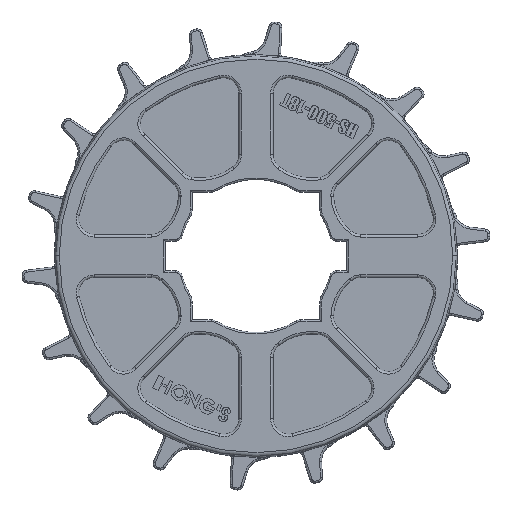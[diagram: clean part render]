
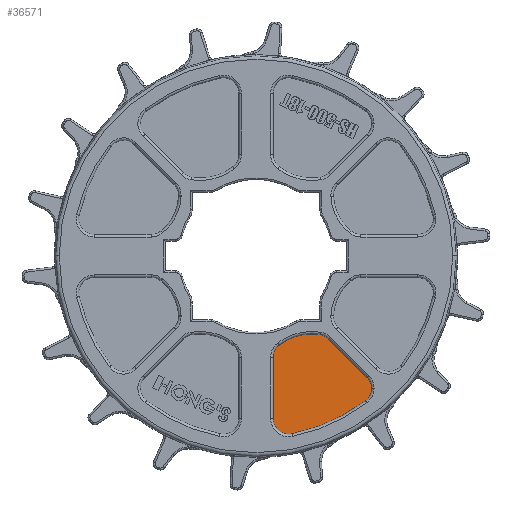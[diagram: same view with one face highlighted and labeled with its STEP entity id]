
A CAD part, top view. The second image highlights one B-rep face of the part: STEP entity #36571.
In plain terms, the highlighted planar face has unit normal (0, 0, 1).
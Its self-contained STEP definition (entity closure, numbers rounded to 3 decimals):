
#28 = CARTESIAN_POINT ( 'NONE',  ( -142.645, -28.265, 2.3 ) ) ;
#227 = ORIENTED_EDGE ( 'NONE', *, *, #13924, .T. ) ;
#337 = ORIENTED_EDGE ( 'NONE', *, *, #1277, .T. ) ;
#851 = DIRECTION ( 'NONE',  ( 0.602, -0.798, 0. ) ) ;
#1013 = ORIENTED_EDGE ( 'NONE', *, *, #21392, .T. ) ;
#1277 = EDGE_CURVE ( 'NONE', #13837, #46793, #46541, .T. ) ;
#1674 = EDGE_CURVE ( 'NONE', #34985, #6572, #12058, .T. ) ;
#2133 = DIRECTION ( 'NONE',  ( 0., 0., 1. ) ) ;
#3214 = DIRECTION ( 'NONE',  ( -0.707, 0.707, 0. ) ) ;
#3397 = CARTESIAN_POINT ( 'NONE',  ( -150., 0., 2.3 ) ) ;
#3626 = EDGE_CURVE ( 'NONE', #8167, #13837, #27083, .T. ) ;
#4044 = DIRECTION ( 'NONE',  ( 0., 0., 1. ) ) ;
#4640 = DIRECTION ( 'NONE',  ( 1., 0., 0. ) ) ;
#4662 = AXIS2_PLACEMENT_3D ( 'NONE', #36837, #48303, #25181 ) ;
#5817 = CARTESIAN_POINT ( 'NONE',  ( -130.428, -29.896, 2.3 ) ) ;
#6229 = ORIENTED_EDGE ( 'NONE', *, *, #42614, .T. ) ;
#6572 = VERTEX_POINT ( 'NONE', #28 ) ;
#8167 = VERTEX_POINT ( 'NONE', #13315 ) ;
#8759 = FACE_OUTER_BOUND ( 'NONE', #33842, .T. ) ;
#10038 = DIRECTION ( 'NONE',  ( 0.707, 0.707, 0. ) ) ;
#10075 = ORIENTED_EDGE ( 'NONE', *, *, #1674, .T. ) ;
#10442 = VERTEX_POINT ( 'NONE', #48453 ) ;
#11293 = ORIENTED_EDGE ( 'NONE', *, *, #39940, .T. ) ;
#11924 = LINE ( 'NONE', #26521, #21023 ) ;
#12058 = CIRCLE ( 'NONE', #15401, 17.001 ) ;
#13092 = DIRECTION ( 'NONE',  ( 0., 0., 1. ) ) ;
#13315 = CARTESIAN_POINT ( 'NONE',  ( -144.6, -51.55, 2.3 ) ) ;
#13837 = VERTEX_POINT ( 'NONE', #45822 ) ;
#13924 = EDGE_CURVE ( 'NONE', #46793, #42158, #28550, .T. ) ;
#15401 = AXIS2_PLACEMENT_3D ( 'NONE', #25979, #48601, #21769 ) ;
#16634 = LINE ( 'NONE', #19700, #49830 ) ;
#16960 = DIRECTION ( 'NONE',  ( 0.602, -0.798, 0. ) ) ;
#18780 = DIRECTION ( 'NONE',  ( 0., 0., 1. ) ) ;
#18953 = DIRECTION ( 'NONE',  ( 0.198, -0.98, 0. ) ) ;
#19252 = AXIS2_PLACEMENT_3D ( 'NONE', #3397, #18780, #18953 ) ;
#19700 = CARTESIAN_POINT ( 'NONE',  ( -144.6, -32.232, 2.3 ) ) ;
#20062 = ORIENTED_EDGE ( 'NONE', *, *, #21598, .T. ) ;
#20159 = CARTESIAN_POINT ( 'NONE',  ( -126.893, -26.36, 2.3 ) ) ;
#21023 = VECTOR ( 'NONE', #3214, 1000. ) ;
#21392 = EDGE_CURVE ( 'NONE', #6572, #10442, #33678, .T. ) ;
#21598 = EDGE_CURVE ( 'NONE', #35070, #31645, #11924, .T. ) ;
#21769 = DIRECTION ( 'NONE',  ( 0.155, 0.988, 0. ) ) ;
#22968 = CARTESIAN_POINT ( 'NONE',  ( -139.6, -51.55, 2.3 ) ) ;
#23276 = CARTESIAN_POINT ( 'NONE',  ( -113.336, -41.988, 2.3 ) ) ;
#23716 = PLANE ( 'NONE',  #30005 ) ;
#25181 = DIRECTION ( 'NONE',  ( -0.609, 0.793, 0. ) ) ;
#25979 = CARTESIAN_POINT ( 'NONE',  ( -132.292, -41.751, 2.3 ) ) ;
#26521 = CARTESIAN_POINT ( 'NONE',  ( -114.8, -38.452, 2.3 ) ) ;
#27083 = CIRCLE ( 'NONE', #40958, 5. ) ;
#27329 = CARTESIAN_POINT ( 'NONE',  ( -118.336, -41.988, 2.3 ) ) ;
#28121 = CARTESIAN_POINT ( 'NONE',  ( -132.292, -41.751, 2.3 ) ) ;
#28550 = CIRCLE ( 'NONE', #31291, 5. ) ;
#28696 = CARTESIAN_POINT ( 'NONE',  ( -115.325, -45.98, 2.3 ) ) ;
#29519 = ORIENTED_EDGE ( 'NONE', *, *, #3626, .T. ) ;
#30005 = AXIS2_PLACEMENT_3D ( 'NONE', #28121, #13092, #4640 ) ;
#31291 = AXIS2_PLACEMENT_3D ( 'NONE', #44267, #36371, #16960 ) ;
#31645 = VERTEX_POINT ( 'NONE', #20159 ) ;
#33678 = CIRCLE ( 'NONE', #4662, 5. ) ;
#33842 = EDGE_LOOP ( 'NONE', ( #29519, #337, #227, #46502, #20062, #11293, #10075, #1013, #6229 ) ) ;
#34727 = CARTESIAN_POINT ( 'NONE',  ( -129.652, -24.956, 2.3 ) ) ;
#34985 = VERTEX_POINT ( 'NONE', #34727 ) ;
#35070 = VERTEX_POINT ( 'NONE', #46355 ) ;
#35497 = CIRCLE ( 'NONE', #49524, 5. ) ;
#36371 = DIRECTION ( 'NONE',  ( 0., 0., 1. ) ) ;
#36571 = ADVANCED_FACE ( 'NONE', ( #8759 ), #23716, .T. ) ;
#36837 = CARTESIAN_POINT ( 'NONE',  ( -139.6, -32.232, 2.3 ) ) ;
#39417 = CIRCLE ( 'NONE', #47381, 5. ) ;
#39940 = EDGE_CURVE ( 'NONE', #31645, #34985, #35497, .T. ) ;
#40958 = AXIS2_PLACEMENT_3D ( 'NONE', #22968, #4044, #49978 ) ;
#42158 = VERTEX_POINT ( 'NONE', #23276 ) ;
#42614 = EDGE_CURVE ( 'NONE', #10442, #8167, #16634, .T. ) ;
#42990 = DIRECTION ( 'NONE',  ( 0., 0., 1. ) ) ;
#44267 = CARTESIAN_POINT ( 'NONE',  ( -118.336, -41.988, 2.3 ) ) ;
#44437 = EDGE_CURVE ( 'NONE', #42158, #35070, #39417, .T. ) ;
#45822 = CARTESIAN_POINT ( 'NONE',  ( -138.611, -56.452, 2.3 ) ) ;
#46345 = DIRECTION ( 'NONE',  ( 0., -1., 0. ) ) ;
#46355 = CARTESIAN_POINT ( 'NONE',  ( -114.8, -38.452, 2.3 ) ) ;
#46502 = ORIENTED_EDGE ( 'NONE', *, *, #44437, .T. ) ;
#46541 = CIRCLE ( 'NONE', #19252, 57.589 ) ;
#46793 = VERTEX_POINT ( 'NONE', #28696 ) ;
#47381 = AXIS2_PLACEMENT_3D ( 'NONE', #27329, #42990, #851 ) ;
#48303 = DIRECTION ( 'NONE',  ( 0., 0., 1. ) ) ;
#48453 = CARTESIAN_POINT ( 'NONE',  ( -144.6, -32.232, 2.3 ) ) ;
#48601 = DIRECTION ( 'NONE',  ( 0., 0., 1. ) ) ;
#49524 = AXIS2_PLACEMENT_3D ( 'NONE', #5817, #2133, #10038 ) ;
#49830 = VECTOR ( 'NONE', #46345, 1000. ) ;
#49978 = DIRECTION ( 'NONE',  ( -1., 0., 0. ) ) ;
